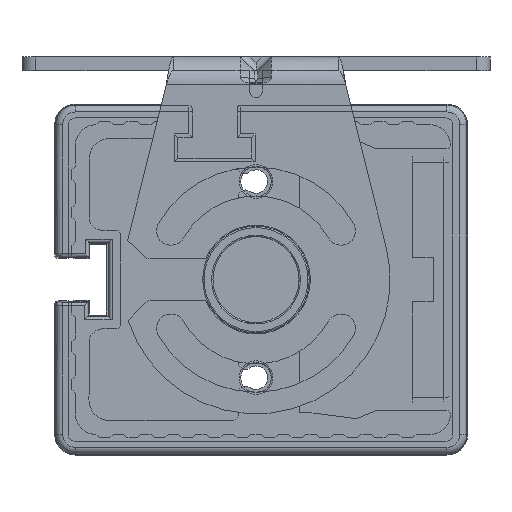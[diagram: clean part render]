
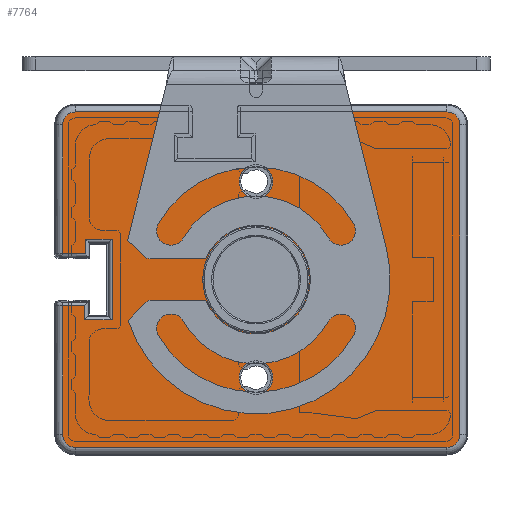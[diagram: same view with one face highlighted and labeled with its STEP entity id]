
A CAD part, front view. The second image highlights one B-rep face of the part: STEP entity #7764.
In plain terms, the highlighted planar face has unit normal (0, -1, 0).
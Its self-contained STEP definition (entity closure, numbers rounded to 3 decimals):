
#1387=FACE_BOUND('',#27560,.T.);
#1388=FACE_BOUND('',#27561,.T.);
#1389=FACE_BOUND('',#27562,.T.);
#1390=FACE_BOUND('',#27563,.T.);
#7764=ADVANCED_FACE('',(#1387,#1388,#1389,#1390),#14110,.T.);
#14110=PLANE('',#140294);
#27560=EDGE_LOOP('',(#60645,#60646,#60647,#60648,#60649,#60650,#60651,#60652,
#60653,#60654,#60655,#60656,#60657,#60658,#60659,#60660,#60661,#60662,#60663,
#60664,#60665,#60666,#60667,#60668));
#27561=EDGE_LOOP('',(#60669,#60670));
#27562=EDGE_LOOP('',(#60671,#60672));
#27563=EDGE_LOOP('',(#60673,#60674));
#29591=CIRCLE('',#140284,1.86);
#29592=CIRCLE('',#140285,1.86);
#29593=CIRCLE('',#140286,1.86);
#29594=CIRCLE('',#140287,1.86);
#29595=CIRCLE('',#140288,2.45);
#29596=CIRCLE('',#140289,2.45);
#29597=CIRCLE('',#140290,2.45);
#29598=CIRCLE('',#140291,2.45);
#29599=CIRCLE('',#140292,7.75);
#29600=CIRCLE('',#140293,7.75);
#60645=ORIENTED_EDGE('',*,*,#95828,.F.);
#60646=ORIENTED_EDGE('',*,*,#95829,.F.);
#60647=ORIENTED_EDGE('',*,*,#95830,.F.);
#60648=ORIENTED_EDGE('',*,*,#95831,.F.);
#60649=ORIENTED_EDGE('',*,*,#95832,.F.);
#60650=ORIENTED_EDGE('',*,*,#95833,.T.);
#60651=ORIENTED_EDGE('',*,*,#95834,.F.);
#60652=ORIENTED_EDGE('',*,*,#95835,.F.);
#60653=ORIENTED_EDGE('',*,*,#95836,.F.);
#60654=ORIENTED_EDGE('',*,*,#95837,.F.);
#60655=ORIENTED_EDGE('',*,*,#95838,.T.);
#60656=ORIENTED_EDGE('',*,*,#95839,.F.);
#60657=ORIENTED_EDGE('',*,*,#95840,.F.);
#60658=ORIENTED_EDGE('',*,*,#95841,.F.);
#60659=ORIENTED_EDGE('',*,*,#95842,.F.);
#60660=ORIENTED_EDGE('',*,*,#95843,.T.);
#60661=ORIENTED_EDGE('',*,*,#95844,.F.);
#60662=ORIENTED_EDGE('',*,*,#95845,.F.);
#60663=ORIENTED_EDGE('',*,*,#95846,.F.);
#60664=ORIENTED_EDGE('',*,*,#95847,.F.);
#60665=ORIENTED_EDGE('',*,*,#95848,.F.);
#60666=ORIENTED_EDGE('',*,*,#95849,.F.);
#60667=ORIENTED_EDGE('',*,*,#95850,.F.);
#60668=ORIENTED_EDGE('',*,*,#95851,.F.);
#60669=ORIENTED_EDGE('',*,*,#95852,.F.);
#60670=ORIENTED_EDGE('',*,*,#95853,.F.);
#60671=ORIENTED_EDGE('',*,*,#95854,.F.);
#60672=ORIENTED_EDGE('',*,*,#95855,.F.);
#60673=ORIENTED_EDGE('',*,*,#95856,.F.);
#60674=ORIENTED_EDGE('',*,*,#95857,.F.);
#78127=VERTEX_POINT('',#208143);
#78128=VERTEX_POINT('',#208144);
#78129=VERTEX_POINT('',#208146);
#78130=VERTEX_POINT('',#208148);
#78131=VERTEX_POINT('',#208150);
#78132=VERTEX_POINT('',#208152);
#78133=VERTEX_POINT('',#208154);
#78134=VERTEX_POINT('',#208156);
#78135=VERTEX_POINT('',#208158);
#78136=VERTEX_POINT('',#208160);
#78137=VERTEX_POINT('',#208162);
#78138=VERTEX_POINT('',#208164);
#78139=VERTEX_POINT('',#208166);
#78140=VERTEX_POINT('',#208168);
#78141=VERTEX_POINT('',#208170);
#78142=VERTEX_POINT('',#208172);
#78143=VERTEX_POINT('',#208174);
#78144=VERTEX_POINT('',#208176);
#78145=VERTEX_POINT('',#208178);
#78146=VERTEX_POINT('',#208180);
#78147=VERTEX_POINT('',#208182);
#78148=VERTEX_POINT('',#208184);
#78149=VERTEX_POINT('',#208186);
#78150=VERTEX_POINT('',#208188);
#78151=VERTEX_POINT('',#208191);
#78152=VERTEX_POINT('',#208192);
#78153=VERTEX_POINT('',#208195);
#78154=VERTEX_POINT('',#208196);
#78155=VERTEX_POINT('',#208199);
#78156=VERTEX_POINT('',#208200);
#95828=EDGE_CURVE('',#78127,#78128,#113984,.T.);
#95829=EDGE_CURVE('',#78129,#78127,#113985,.T.);
#95830=EDGE_CURVE('',#78130,#78129,#113986,.T.);
#95831=EDGE_CURVE('',#78131,#78130,#113987,.T.);
#95832=EDGE_CURVE('',#78132,#78131,#113988,.T.);
#95833=EDGE_CURVE('',#78132,#78133,#113989,.T.);
#95834=EDGE_CURVE('',#78134,#78133,#113990,.T.);
#95835=EDGE_CURVE('',#78135,#78134,#29591,.T.);
#95836=EDGE_CURVE('',#78136,#78135,#113991,.T.);
#95837=EDGE_CURVE('',#78137,#78136,#113992,.T.);
#95838=EDGE_CURVE('',#78137,#78138,#113993,.T.);
#95839=EDGE_CURVE('',#78139,#78138,#113994,.T.);
#95840=EDGE_CURVE('',#78140,#78139,#113995,.T.);
#95841=EDGE_CURVE('',#78141,#78140,#113996,.T.);
#95842=EDGE_CURVE('',#78142,#78141,#113997,.T.);
#95843=EDGE_CURVE('',#78142,#78143,#113998,.T.);
#95844=EDGE_CURVE('',#78144,#78143,#113999,.T.);
#95845=EDGE_CURVE('',#78145,#78144,#29592,.T.);
#95846=EDGE_CURVE('',#78146,#78145,#114000,.T.);
#95847=EDGE_CURVE('',#78147,#78146,#29593,.T.);
#95848=EDGE_CURVE('',#78148,#78147,#114001,.T.);
#95849=EDGE_CURVE('',#78149,#78148,#29594,.T.);
#95850=EDGE_CURVE('',#78150,#78149,#114002,.T.);
#95851=EDGE_CURVE('',#78128,#78150,#114003,.T.);
#95852=EDGE_CURVE('',#78151,#78152,#29595,.T.);
#95853=EDGE_CURVE('',#78152,#78151,#29596,.T.);
#95854=EDGE_CURVE('',#78153,#78154,#29597,.T.);
#95855=EDGE_CURVE('',#78154,#78153,#29598,.T.);
#95856=EDGE_CURVE('',#78155,#78156,#29599,.T.);
#95857=EDGE_CURVE('',#78156,#78155,#29600,.T.);
#113984=LINE('',#208142,#131264);
#113985=LINE('',#208145,#131265);
#113986=LINE('',#208147,#131266);
#113987=LINE('',#208149,#131267);
#113988=LINE('',#208151,#131268);
#113989=LINE('',#208153,#131269);
#113990=LINE('',#208155,#131270);
#113991=LINE('',#208159,#131271);
#113992=LINE('',#208161,#131272);
#113993=LINE('',#208163,#131273);
#113994=LINE('',#208165,#131274);
#113995=LINE('',#208167,#131275);
#113996=LINE('',#208169,#131276);
#113997=LINE('',#208171,#131277);
#113998=LINE('',#208173,#131278);
#113999=LINE('',#208175,#131279);
#114000=LINE('',#208179,#131280);
#114001=LINE('',#208183,#131281);
#114002=LINE('',#208187,#131282);
#114003=LINE('',#208189,#131283);
#131264=VECTOR('',#168913,1.);
#131265=VECTOR('',#168914,1.);
#131266=VECTOR('',#168915,1.);
#131267=VECTOR('',#168916,1.);
#131268=VECTOR('',#168917,1.);
#131269=VECTOR('',#168918,1.);
#131270=VECTOR('',#168919,1.);
#131271=VECTOR('',#168922,1.);
#131272=VECTOR('',#168923,1.);
#131273=VECTOR('',#168924,1.);
#131274=VECTOR('',#168925,1.);
#131275=VECTOR('',#168926,1.);
#131276=VECTOR('',#168927,1.);
#131277=VECTOR('',#168928,1.);
#131278=VECTOR('',#168929,1.);
#131279=VECTOR('',#168930,1.);
#131280=VECTOR('',#168933,1.);
#131281=VECTOR('',#168936,1.);
#131282=VECTOR('',#168939,1.);
#131283=VECTOR('',#168940,1.);
#140284=AXIS2_PLACEMENT_3D('',#208157,#168920,#168921);
#140285=AXIS2_PLACEMENT_3D('',#208177,#168931,#168932);
#140286=AXIS2_PLACEMENT_3D('',#208181,#168934,#168935);
#140287=AXIS2_PLACEMENT_3D('',#208185,#168937,#168938);
#140288=AXIS2_PLACEMENT_3D('',#208190,#168941,#168942);
#140289=AXIS2_PLACEMENT_3D('',#208193,#168943,#168944);
#140290=AXIS2_PLACEMENT_3D('',#208194,#168945,#168946);
#140291=AXIS2_PLACEMENT_3D('',#208197,#168947,#168948);
#140292=AXIS2_PLACEMENT_3D('',#208198,#168949,#168950);
#140293=AXIS2_PLACEMENT_3D('',#208201,#168951,#168952);
#140294=AXIS2_PLACEMENT_3D('',#208202,#168953,#168954);
#168913=DIRECTION('',(-1.,0.,0.));
#168914=DIRECTION('',(0.,0.,1.));
#168915=DIRECTION('',(1.,0.,0.));
#168916=DIRECTION('',(0.,0.,-1.));
#168917=DIRECTION('',(-1.,0.,0.));
#168918=DIRECTION('',(0.,0.,1.));
#168919=DIRECTION('',(1.,0.,0.));
#168920=DIRECTION('',(0.,1.,0.));
#168921=DIRECTION('',(-1.,0.,0.));
#168922=DIRECTION('',(0.,0.,1.));
#168923=DIRECTION('',(-1.,0.,0.));
#168924=DIRECTION('',(0.,0.,1.));
#168925=DIRECTION('',(-1.,0.,0.));
#168926=DIRECTION('',(0.,0.,1.));
#168927=DIRECTION('',(1.,0.,0.));
#168928=DIRECTION('',(0.,0.,-1.));
#168929=DIRECTION('',(-1.,0.,0.));
#168930=DIRECTION('',(0.,0.,1.));
#168931=DIRECTION('',(0.,1.,0.));
#168932=DIRECTION('',(0.,0.,-1.));
#168933=DIRECTION('',(-1.,0.,0.));
#168934=DIRECTION('',(0.,1.,0.));
#168935=DIRECTION('',(1.,0.,0.));
#168936=DIRECTION('',(0.,0.,-1.));
#168937=DIRECTION('',(0.,1.,0.));
#168938=DIRECTION('',(0.,0.,1.));
#168939=DIRECTION('',(1.,0.,0.));
#168940=DIRECTION('',(0.,0.,1.));
#168941=DIRECTION('',(0.,-1.,0.));
#168942=DIRECTION('',(-1.,0.,0.));
#168943=DIRECTION('',(0.,-1.,0.));
#168944=DIRECTION('',(1.,0.,0.));
#168945=DIRECTION('',(0.,-1.,0.));
#168946=DIRECTION('',(-1.,0.,0.));
#168947=DIRECTION('',(0.,-1.,0.));
#168948=DIRECTION('',(1.,0.,0.));
#168949=DIRECTION('',(0.,-1.,0.));
#168950=DIRECTION('',(1.,0.,0.));
#168951=DIRECTION('',(0.,-1.,0.));
#168952=DIRECTION('',(-1.,0.,0.));
#168953=DIRECTION('',(0.,-1.,0.));
#168954=DIRECTION('',(0.,0.,1.));
#208142=CARTESIAN_POINT('',(-1.143,-283.,21.157));
#208143=CARTESIAN_POINT('',(-1.143,-283.,21.157));
#208144=CARTESIAN_POINT('',(-3.243,-283.,21.157));
#208145=CARTESIAN_POINT('',(-1.143,-283.,17.143));
#208146=CARTESIAN_POINT('',(-1.143,-283.,17.143));
#208147=CARTESIAN_POINT('',(-12.857,-283.,17.143));
#208148=CARTESIAN_POINT('',(-12.857,-283.,17.143));
#208149=CARTESIAN_POINT('',(-12.857,-283.,21.157));
#208150=CARTESIAN_POINT('',(-12.857,-283.,21.157));
#208151=CARTESIAN_POINT('',(-10.757,-283.,21.157));
#208152=CARTESIAN_POINT('',(-10.757,-283.,21.157));
#208153=CARTESIAN_POINT('',(-10.757,-283.,0.));
#208154=CARTESIAN_POINT('',(-10.757,-283.,24.36));
#208155=CARTESIAN_POINT('',(-27.439,-283.,24.36));
#208156=CARTESIAN_POINT('',(-27.25,-283.,24.36));
#208157=CARTESIAN_POINT('',(-27.25,-283.,22.5));
#208158=CARTESIAN_POINT('',(-29.11,-283.,22.5));
#208159=CARTESIAN_POINT('',(-29.11,-283.,-91.984));
#208160=CARTESIAN_POINT('',(-29.11,-283.,3.757));
#208161=CARTESIAN_POINT('',(106.822,-283.,3.757));
#208162=CARTESIAN_POINT('',(-25.75,-283.,3.757));
#208163=CARTESIAN_POINT('',(-25.75,-283.,3.757));
#208164=CARTESIAN_POINT('',(-25.75,-283.,5.857));
#208165=CARTESIAN_POINT('',(-21.893,-283.,5.857));
#208166=CARTESIAN_POINT('',(-21.893,-283.,5.857));
#208167=CARTESIAN_POINT('',(-21.893,-283.,-5.857));
#208168=CARTESIAN_POINT('',(-21.893,-283.,-5.857));
#208169=CARTESIAN_POINT('',(-25.907,-283.,-5.857));
#208170=CARTESIAN_POINT('',(-25.907,-283.,-5.857));
#208171=CARTESIAN_POINT('',(-25.907,-283.,-3.757));
#208172=CARTESIAN_POINT('',(-25.907,-283.,-3.757));
#208173=CARTESIAN_POINT('',(-0.25,-283.,-3.757));
#208174=CARTESIAN_POINT('',(-29.11,-283.,-3.757));
#208175=CARTESIAN_POINT('',(-29.11,-283.,-22.689));
#208176=CARTESIAN_POINT('',(-29.11,-283.,-22.5));
#208177=CARTESIAN_POINT('',(-27.25,-283.,-22.5));
#208178=CARTESIAN_POINT('',(-27.25,-283.,-24.36));
#208179=CARTESIAN_POINT('',(26.75,-283.,-24.36));
#208180=CARTESIAN_POINT('',(26.75,-283.,-24.36));
#208181=CARTESIAN_POINT('',(26.75,-283.,-22.5));
#208182=CARTESIAN_POINT('',(28.61,-283.,-22.5));
#208183=CARTESIAN_POINT('',(28.61,-283.,22.5));
#208184=CARTESIAN_POINT('',(28.61,-283.,22.5));
#208185=CARTESIAN_POINT('',(26.75,-283.,22.5));
#208186=CARTESIAN_POINT('',(26.75,-283.,24.36));
#208187=CARTESIAN_POINT('',(-108.466,-283.,24.36));
#208188=CARTESIAN_POINT('',(-3.243,-283.,24.36));
#208189=CARTESIAN_POINT('',(-3.243,-283.,-91.984));
#208190=CARTESIAN_POINT('',(-1.,-283.,14.25));
#208191=CARTESIAN_POINT('',(-3.45,-283.,14.25));
#208192=CARTESIAN_POINT('',(1.45,-283.,14.25));
#208193=CARTESIAN_POINT('',(-1.,-283.,14.25));
#208194=CARTESIAN_POINT('',(-1.,-283.,-14.25));
#208195=CARTESIAN_POINT('',(-3.45,-283.,-14.25));
#208196=CARTESIAN_POINT('',(1.45,-283.,-14.25));
#208197=CARTESIAN_POINT('',(-1.,-283.,-14.25));
#208198=CARTESIAN_POINT('',(-1.,-283.,0.));
#208199=CARTESIAN_POINT('',(6.75,-283.,0.));
#208200=CARTESIAN_POINT('',(-8.75,-283.,0.));
#208201=CARTESIAN_POINT('',(-1.,-283.,0.));
#208202=CARTESIAN_POINT('',(-0.25,-283.,0.));
